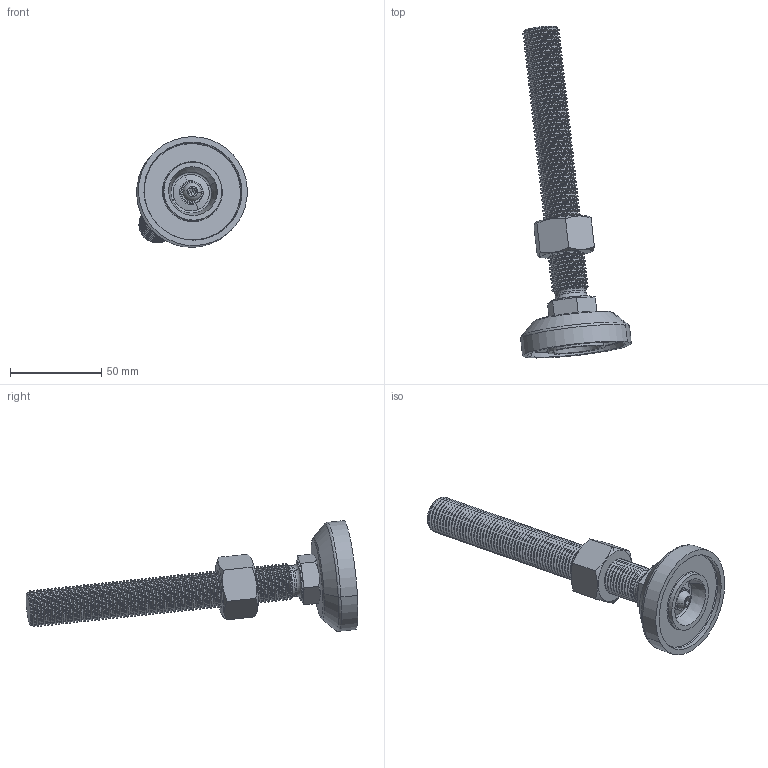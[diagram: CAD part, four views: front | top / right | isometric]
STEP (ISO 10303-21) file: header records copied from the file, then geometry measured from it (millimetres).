
FILE_DESCRIPTION (( 'STEP AP203' ), '1' );
FILE_NAME ('5.24.60.20.180.SS.STEP', '2014-05-20T06:18:34', ( 'USER' ), ( 'Microsoft' ), 'SwSTEP 2.0', 'SolidWorks 2012', '' );
FILE_SCHEMA (( 'CONFIG_CONTROL_DESIGN' ));
Length unit declared in the file: millimetre
Products named in the file (7): 5.24.60.20.180.SS; Hexagon socket button head screws GB_GB_SOCKET_TYPE7 M6X20-N; Hexagon nuts grade C GB_GB_FASTENER_NUT_SNC1 M20-N; Plain washers--Product grade C GB_GB_FASTENER_WASHER_SMWC 6; ￠60金属微调支脚脚垫; M6蹟隊踢扽杶; 150mm-M20支金属微调脚螺杆
Assembly tree (6 placements, depth 2):
  5.24.60.20.180.SS
    150mm-M20支金属微调脚螺杆
    M6蹟隊踢扽杶
    ￠60金属微调支脚脚垫
    Plain washers--Product grade C GB_GB_FASTENER_WASHER_SMWC 6
    Hexagon nuts grade C GB_GB_FASTENER_NUT_SNC1 M20-N
    Hexagon socket button head screws GB_GB_SOCKET_TYPE7 M6X20-N
Bounding box: 60.6 x 181.81 x 60.61 mm (x, y, z)
Volume: 93407.5 mm3; surface area: 31330.4 mm2
Topology: 6 solids, 6 shells, 835 faces, 1686 edges, 868 vertices
Faces by surface type: torus 310, cone 306, cylinder 170, plane 41, sphere 8
Entity records: 22273 total; most frequent: DIRECTION 4514, CARTESIAN_POINT 3536, ORIENTED_EDGE 3368, AXIS2_PLACEMENT_3D 1998, EDGE_CURVE 1684, CIRCLE 1154, VERTEX_POINT 868, EDGE_LOOP 850
